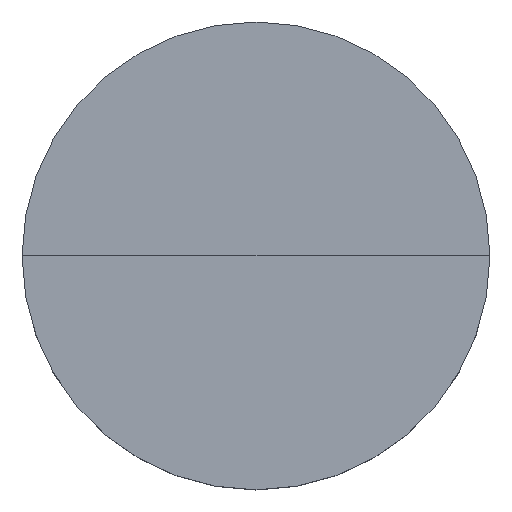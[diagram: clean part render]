
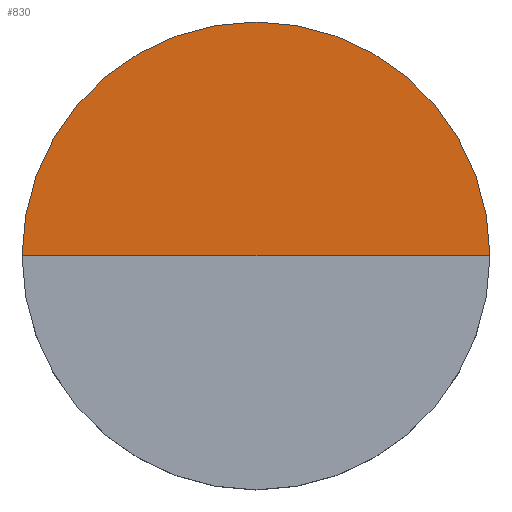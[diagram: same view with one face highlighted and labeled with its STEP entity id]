
A CAD part, top view. The second image highlights one B-rep face of the part: STEP entity #830.
In plain terms, the highlighted planar face has unit normal (0, 0, 1).
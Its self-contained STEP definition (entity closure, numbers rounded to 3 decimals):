
#830=ADVANCED_FACE('',(#2418),#16499,.T.);
#2418=FACE_OUTER_BOUND('',#4006,.T.);
#4006=EDGE_LOOP('',(#8978,#8979,#8980));
#8978=ORIENTED_EDGE('',*,*,#11503,.F.);
#8979=ORIENTED_EDGE('',*,*,#11502,.T.);
#8980=ORIENTED_EDGE('',*,*,#11504,.F.);
#11502=EDGE_CURVE('',#15684,#15683,#14003,.T.);
#11503=EDGE_CURVE('',#15684,#15685,#14015,.T.);
#11504=EDGE_CURVE('',#15685,#15683,#11553,.T.);
#11553=(
BOUNDED_CURVE()
B_SPLINE_CURVE(1,(#80658,#80659),.UNSPECIFIED.,.F.,.F.)
B_SPLINE_CURVE_WITH_KNOTS((2,2),(221.105,331.657),
 .UNSPECIFIED.)
CURVE()
GEOMETRIC_REPRESENTATION_ITEM()
RATIONAL_B_SPLINE_CURVE((1.,1.))
REPRESENTATION_ITEM('')
);
#14003=B_SPLINE_CURVE_WITH_KNOTS('',1,(#80653,#80654),.UNSPECIFIED.,.F.,
 .F.,(2,2),(221.105,331.657),.UNSPECIFIED.);
#14015=TRIMMED_CURVE($,#14033,(#80656),(#80657),.T.,.CARTESIAN.);
#14033=CIRCLE('',#16628,232.045);
#15683=VERTEX_POINT('',#80639);
#15684=VERTEX_POINT('',#80640);
#15685=VERTEX_POINT('',#80641);
#16499=PLANE('',#16617);
#16617=AXIS2_PLACEMENT_3D('',#80628,#16665,$);
#16628=AXIS2_PLACEMENT_3D($,#80655,#16677,#16678);
#16665=DIRECTION('',(0.,0.,1.));
#16677=DIRECTION('',(0.,0.,-1.));
#16678=DIRECTION('',(-1.,0.,0.));
#80628=CARTESIAN_POINT('',(2398.339,112.323,37.439));
#80639=CARTESIAN_POINT('',(2630.383,112.323,37.439));
#80640=CARTESIAN_POINT('',(2398.339,112.323,37.439));
#80641=CARTESIAN_POINT('',(2862.428,112.323,37.439));
#80653=CARTESIAN_POINT('',(2398.339,112.323,37.439));
#80654=CARTESIAN_POINT('',(2630.383,112.323,37.439));
#80655=CARTESIAN_POINT('',(2630.383,112.323,37.439));
#80656=CARTESIAN_POINT('',(2398.339,112.323,37.439));
#80657=CARTESIAN_POINT('',(2862.428,112.323,37.439));
#80658=CARTESIAN_POINT('',(2862.428,112.323,37.439));
#80659=CARTESIAN_POINT('',(2630.383,112.323,37.439));
